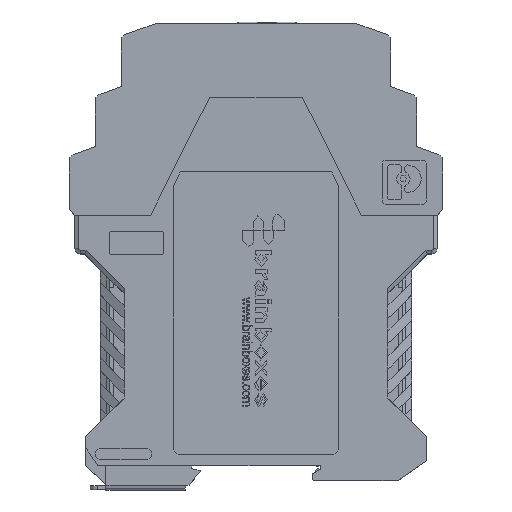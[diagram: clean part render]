
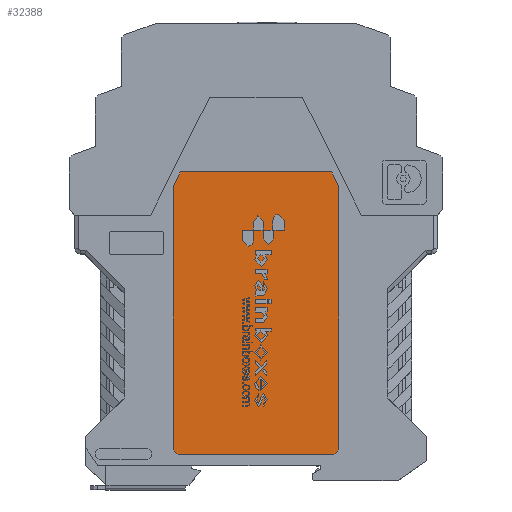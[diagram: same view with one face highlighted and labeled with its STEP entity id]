
A CAD part, top view. The second image highlights one B-rep face of the part: STEP entity #32388.
In plain terms, the highlighted planar face has unit normal (0, 0, 1).
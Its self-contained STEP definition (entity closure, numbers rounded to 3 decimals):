
#32388=ADVANCED_FACE('',(#65775),#65776,.T.);
#65775=FACE_OUTER_BOUND('',#103972,.T.);
#65776=PLANE('',#103973);
#103972=EDGE_LOOP('',(#199750,#199751,#199752,#199753,#199754,#199755,#199756,#199757));
#103973=AXIS2_PLACEMENT_3D('',#199758,#199759,#199760);
#199750=ORIENTED_EDGE('',*,*,#246783,.T.);
#199751=ORIENTED_EDGE('',*,*,#246785,.T.);
#199752=ORIENTED_EDGE('',*,*,#246786,.T.);
#199753=ORIENTED_EDGE('',*,*,#246776,.F.);
#199754=ORIENTED_EDGE('',*,*,#246787,.T.);
#199755=ORIENTED_EDGE('',*,*,#246772,.T.);
#199756=ORIENTED_EDGE('',*,*,#246788,.T.);
#199757=ORIENTED_EDGE('',*,*,#246780,.T.);
#199758=CARTESIAN_POINT('',(6.465,75.955,22.4));
#199759=DIRECTION('',(0.0,0.0,1.0));
#199760=DIRECTION('',(1.0,-0.0,0.0));
#246772=EDGE_CURVE('',#304794,#304796,#304798,.T.);
#246776=EDGE_CURVE('',#304802,#304800,#304804,.T.);
#246780=EDGE_CURVE('',#304806,#304808,#304810,.T.);
#246783=EDGE_CURVE('',#304808,#304812,#304814,.T.);
#246785=EDGE_CURVE('',#304812,#304816,#304817,.T.);
#246786=EDGE_CURVE('',#304816,#304800,#304818,.T.);
#246787=EDGE_CURVE('',#304802,#304794,#304819,.T.);
#246788=EDGE_CURVE('',#304796,#304806,#304820,.T.);
#304794=VERTEX_POINT('',#394223);
#304796=VERTEX_POINT('',#394226);
#304798=LINE('',#394229,#394230);
#304800=VERTEX_POINT('',#394232);
#304802=VERTEX_POINT('',#394235);
#304804=LINE('',#394238,#394239);
#304806=VERTEX_POINT('',#394241);
#304808=VERTEX_POINT('',#394244);
#304810=LINE('',#394247,#394248);
#304812=VERTEX_POINT('',#394250);
#304814=LINE('',#394253,#394254);
#304816=VERTEX_POINT('',#394256);
#304817=LINE('',#394257,#394258);
#304818=CIRCLE('',#394259,2.0);
#304819=CIRCLE('',#394260,2.0);
#304820=LINE('',#394261,#394262);
#394223=CARTESIAN_POINT('',(22.65,5.,22.4));
#394226=CARTESIAN_POINT('',(22.65,76.3,22.4));
#394229=CARTESIAN_POINT('',(22.65,-8.,22.4));
#394230=VECTOR('',#438681,1.0);
#394232=CARTESIAN_POINT('',(-20.65,3.,22.4));
#394235=CARTESIAN_POINT('',(20.65,3.,22.4));
#394238=CARTESIAN_POINT('',(0.,3.,22.4));
#394239=VECTOR('',#438684,1.0);
#394241=CARTESIAN_POINT('',(20.65,80.3,22.4));
#394244=CARTESIAN_POINT('',(-20.65,80.3,22.4));
#394247=CARTESIAN_POINT('',(0.,80.3,22.4));
#394248=VECTOR('',#438687,1.0);
#394250=CARTESIAN_POINT('',(-22.65,76.3,22.4));
#394253=CARTESIAN_POINT('',(-51.84,17.92,22.4));
#394254=VECTOR('',#438689,1.0);
#394256=CARTESIAN_POINT('',(-22.65,5.,22.4));
#394257=CARTESIAN_POINT('',(-22.65,-8.,22.4));
#394258=VECTOR('',#438690,1.0);
#394259=AXIS2_PLACEMENT_3D('',#438691,#438692,#438693);
#394260=AXIS2_PLACEMENT_3D('',#438694,#438695,#438696);
#394261=CARTESIAN_POINT('',(51.84,17.92,22.4));
#394262=VECTOR('',#438697,1.0);
#438681=DIRECTION('',(0.,1.0,0.0));
#438684=DIRECTION('',(-1.0,0.,0.0));
#438687=DIRECTION('',(-1.0,0.0,0.0));
#438689=DIRECTION('',(-0.447,-0.894,0.0));
#438690=DIRECTION('',(0.,-1.0,0.0));
#438691=CARTESIAN_POINT('',(-20.65,5.,22.4));
#438692=DIRECTION('',(0.0,0.0,1.0));
#438693=DIRECTION('',(1.0,0.0,0.0));
#438694=CARTESIAN_POINT('',(20.65,5.,22.4));
#438695=DIRECTION('',(0.0,0.0,1.0));
#438696=DIRECTION('',(1.0,0.0,0.0));
#438697=DIRECTION('',(-0.447,0.894,0.0));
